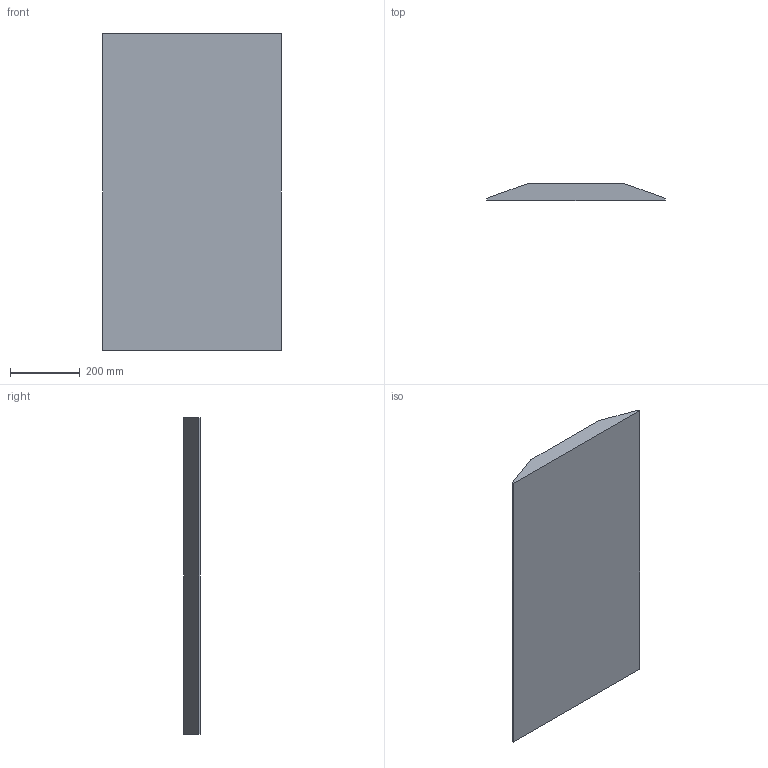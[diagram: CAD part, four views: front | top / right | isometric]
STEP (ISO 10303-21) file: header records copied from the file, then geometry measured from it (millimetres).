
FILE_DESCRIPTION (( 'STEP AP203' ), '1' );
FILE_NAME ('RF5-31.STEP', '2023-12-04T15:13:35', ( '' ), ( '' ), 'SwSTEP 2.0', 'SolidWorks 2021', '' );
FILE_SCHEMA (( 'CONFIG_CONTROL_DESIGN' ));
Length unit declared in the file: millimetre
Products named in the file (1): RF5-31
Bounding box: 510 x 48 x 905 mm (x, y, z)
Volume: 17556922.4 mm3; surface area: 984673.4 mm2
Topology: 1 solids, 1 shells, 8 faces, 18 edges, 12 vertices
Faces by surface type: plane 8
Entity records: 299 total; most frequent: CARTESIAN_POINT 39, ORIENTED_EDGE 36, DIRECTION 36, VECTOR 18, EDGE_CURVE 18, LINE 18, VERTEX_POINT 12, AXIS2_PLACEMENT_3D 9
